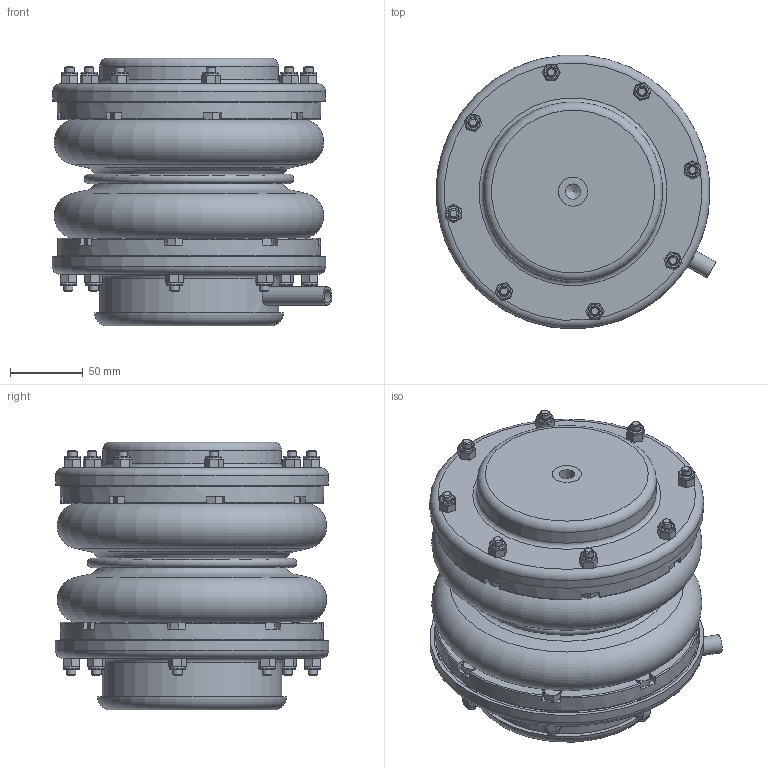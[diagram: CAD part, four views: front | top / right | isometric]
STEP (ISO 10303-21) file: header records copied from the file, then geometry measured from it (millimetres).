
FILE_DESCRIPTION((''),'2;1');
FILE_NAME('C:\2012_Work\Designs\MT MOUNTS\MT-4\MT-4 ASSEMBLY.stp','2013-11-05T13:47:06',('KShiels'),(''),'Autodesk Inventor 2012','Autodesk Inventor 2012','');
FILE_SCHEMA(('AUTOMOTIVE_DESIGN { 1 0 10303 214 1 1 1 1 }'));
Length unit declared in the file: inch
Products named in the file (10): MT-4 ASSEMBLY; MT-4 FRICTION PAD; MT-4 BOTTOM HOUSING; MT-4 RUBBER BELLOWS; MT-4 TAPED ROUND STOCK; MT-4 TOP HOUSING; MT-4 FLANGE; 0; Hex Bolt - Inch 1/4-20 UNC - 1.25; MT-4 NIPPLE
Assembly tree (40 placements, depth 2):
  MT-4 ASSEMBLY
    MT-4 FRICTION PAD
    MT-4 BOTTOM HOUSING
    MT-4 RUBBER BELLOWS
    MT-4 TAPED ROUND STOCK
    MT-4 TOP HOUSING
    MT-4 FLANGE  x2
    0  x16
    Hex Bolt - Inch 1/4-20 UNC - 1.25  x16
    MT-4 NIPPLE
Bounding box: 192.28 x 188.19 x 184.16 mm (x, y, z)
Volume: 1410954.2 mm3; surface area: 601909.9 mm2
Topology: 40 solids, 58 shells, 1324 faces, 3171 edges, 1945 vertices
Faces by surface type: plane 858, cylinder 165, torus 164, cone 137
Full cylindrical faces by diameter (mm): 6.35 x32, 6.604 x16, 7 x32, 7.144 x16, 9.6 x1, 10.592 x1, 11.113 x16, 11.125 x16, 12.6 x1, 13 x1, 20 x2, 25.4 x1, 28 x1, 34 x1, 60 x1, 66 x1, 92 x1, 98 x1, 118 x2, 121 x2, 122.161 x2, 123.2 x2, 123.825 x2, 133.7 x2, 135.014 x2, 152.4 x2, 153 x2, 181 x2, 183 x2, 188.2 x2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
Entity records: 8680 total; most frequent: CARTESIAN_POINT 1736, DIRECTION 1510, ORIENTED_EDGE 1028, AXIS2_PLACEMENT_3D 693, EDGE_LOOP 560, EDGE_CURVE 514, VERTEX_POINT 384, CIRCLE 319
